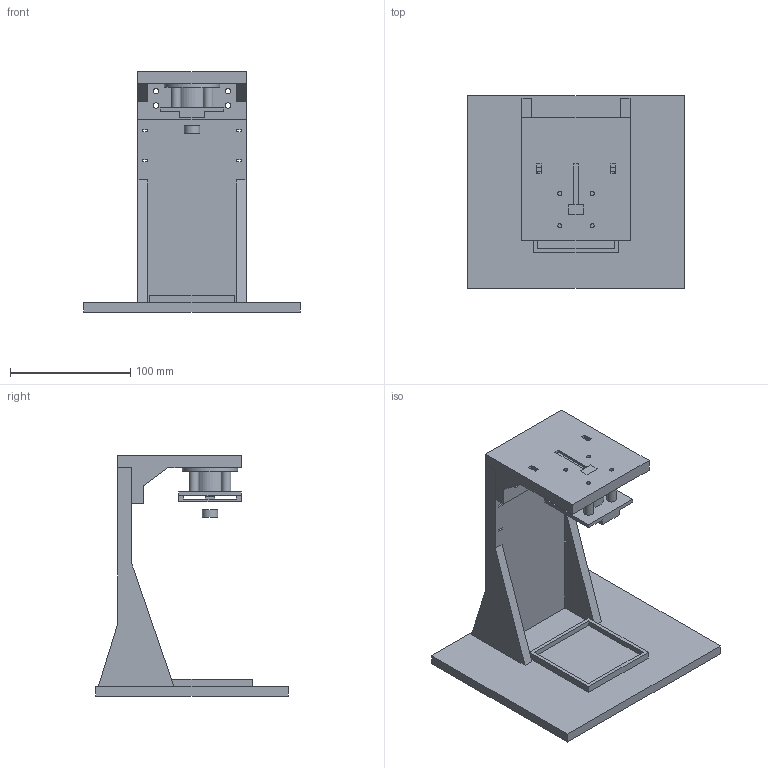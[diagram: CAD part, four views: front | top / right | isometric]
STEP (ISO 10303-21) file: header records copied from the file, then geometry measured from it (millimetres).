
FILE_DESCRIPTION(('Open CASCADE Model'),'2;1');
FILE_NAME('Open CASCADE Shape Model','2026-11-11T10:48:35',('Author'),( 'Open CASCADE'),'Open CASCADE STEP processor 7.9','Open CASCADE 7.9' ,'Unknown');
FILE_SCHEMA(('AUTOMOTIVE_DESIGN { 1 0 10303 214 1 1 1 1 }'));
Length unit declared in the file: millimetre
Products named in the file (9): testbox1_PLA_three_print_assembly; 01_frame_base_upright_tray; 02_cantilever_vented_head_upper_sensor; 03_helper_cassette_lower_sensor_guard; REF_EM_nominal_25x20; REF_helper_nominal; REF_payload_ASSUMED_gap15; REF_Hall_lower_allowance; REF_Hall_upper_allowance
Assembly tree (8 placements, depth 2):
  testbox1_PLA_three_print_assembly
    01_frame_base_upright_tray
    02_cantilever_vented_head_upper_sensor
    03_helper_cassette_lower_sensor_guard
    REF_EM_nominal_25x20
    REF_helper_nominal
    REF_payload_ASSUMED_gap15
    REF_Hall_lower_allowance
    REF_Hall_upper_allowance
Bounding box: 180 x 160 x 200 mm (x, y, z)
Volume: 618816.9 mm3; surface area: 158822.5 mm2
Topology: 8 solids, 8 shells, 165 faces, 430 edges, 284 vertices
Faces by surface type: plane 139, cylinder 26
Full cylindrical faces by diameter (mm): 3.4 x8, 4.5 x8, 8 x4, 12.7 x1, 19.05 x1, 19.6 x1, 25 x1, 26 x1, 46 x1
Entity records: 10735 total; most frequent: CARTESIAN_POINT 1958, DIRECTION 1497, LINE 970, VECTOR 970, ORIENTED_EDGE 860, PCURVE 860, DEFINITIONAL_REPRESENTATION 860, EDGE_CURVE 430
